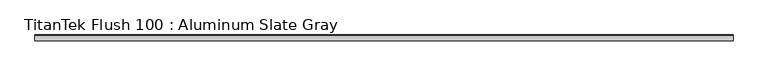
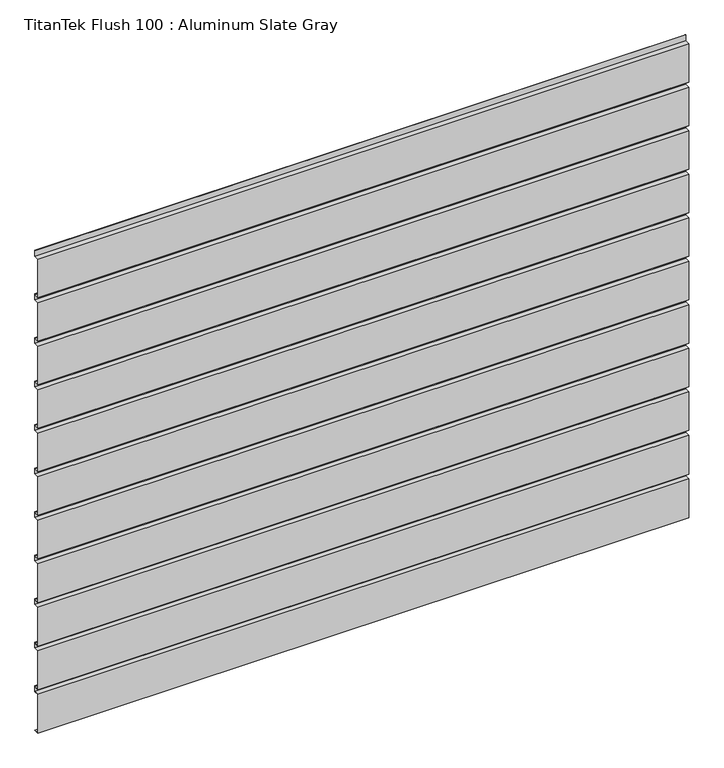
"""IFC4 building model written with IfcOpenShell, lengths in millimetres: proxy geometry, TitanTek Flush 100 : Aluminum Slate Gray."""

from ifc_helpers import new_model, si_unit, frame, origin, place, context, project, spatial, polyline, outline, extrude, source, transform, mapped, element, save


def titantek_flush_100_aluminum_slate_gray_4e4c1b2d(model_context):
    return source(origin(), model_context, "Body", "SweptSolid", [
        extrude(outline(polyline([(-25.4, 3429.0), (-25.4, 3733.8), (12.7, 3733.8), (12.7, 3778.25), (13.6921875, 3778.25), (13.6921875, 3732.8078125), (-24.4078125, 3732.8078125), (-24.4078125, 3429.9921875), (12.7, 3429.9921875), (12.7, 3429.0), (-25.4, 3429.0)])), frame((0.0, 0.0, 0.0), z_axis=(1.0, 0.0, 0.0), x_axis=(0.0, 1.0, 0.0)), (0.0, 0.0, 1.0), 4850.0),
        extrude(outline(polyline([(-25.4, 3086.1), (-25.4, 3390.9), (12.7, 3390.9), (12.7, 3435.35), (13.6921875, 3435.35), (13.6921875, 3389.9078125), (-24.4078125, 3389.9078125), (-24.4078125, 3087.0921875), (12.7, 3087.0921875), (12.7, 3086.1), (-25.4, 3086.1)])), frame((0.0, 0.0, 0.0), z_axis=(1.0, 0.0, 0.0), x_axis=(0.0, 1.0, 0.0)), (0.0, 0.0, 1.0), 4850.0),
        extrude(outline(polyline([(-25.4, 2743.2), (-25.4, 3048.0), (12.7, 3048.0), (12.7, 3092.45), (13.6921875, 3092.45), (13.6921875, 3047.0078125), (-24.4078125, 3047.0078125), (-24.4078125, 2744.1921875), (12.7, 2744.1921875), (12.7, 2743.2), (-25.4, 2743.2)])), frame((0.0, 0.0, 0.0), z_axis=(1.0, 0.0, 0.0), x_axis=(0.0, 1.0, 0.0)), (0.0, 0.0, 1.0), 4850.0),
        extrude(outline(polyline([(-25.4, 2400.3), (-25.4, 2705.1), (12.7, 2705.1), (12.7, 2749.55), (13.6921875, 2749.55), (13.6921875, 2704.1078125), (-24.4078125, 2704.1078125), (-24.4078125, 2401.2921875), (12.7, 2401.2921875), (12.7, 2400.3), (-25.4, 2400.3)])), frame((0.0, 0.0, 0.0), z_axis=(1.0, 0.0, 0.0), x_axis=(0.0, 1.0, 0.0)), (0.0, 0.0, 1.0), 4850.0),
        extrude(outline(polyline([(-25.4, 2057.4), (-25.4, 2362.2), (12.7, 2362.2), (12.7, 2406.65), (13.6921875, 2406.65), (13.6921875, 2361.2078125), (-24.4078125, 2361.2078125), (-24.4078125, 2058.3921875), (12.7, 2058.3921875), (12.7, 2057.4), (-25.4, 2057.4)])), frame((0.0, 0.0, 0.0), z_axis=(1.0, 0.0, 0.0), x_axis=(0.0, 1.0, 0.0)), (0.0, 0.0, 1.0), 4850.0),
        extrude(outline(polyline([(-25.4, 1714.5), (-25.4, 2019.3), (12.7, 2019.3), (12.7, 2063.75), (13.6921875, 2063.75), (13.6921875, 2018.3078125), (-24.4078125, 2018.3078125), (-24.4078125, 1715.4921875), (12.7, 1715.4921875), (12.7, 1714.5), (-25.4, 1714.5)])), frame((0.0, 0.0, 0.0), z_axis=(1.0, 0.0, 0.0), x_axis=(0.0, 1.0, 0.0)), (0.0, 0.0, 1.0), 4850.0),
        extrude(outline(polyline([(-25.4, 1371.6), (-25.4, 1676.4), (12.7, 1676.4), (12.7, 1720.85), (13.6921875, 1720.85), (13.6921875, 1675.4078125), (-24.4078125, 1675.4078125), (-24.4078125, 1372.5921875), (12.7, 1372.5921875), (12.7, 1371.6), (-25.4, 1371.6)])), frame((0.0, 0.0, 0.0), z_axis=(1.0, 0.0, 0.0), x_axis=(0.0, 1.0, 0.0)), (0.0, 0.0, 1.0), 4850.0),
        extrude(outline(polyline([(-25.4, 1028.7), (-25.4, 1333.5), (12.7, 1333.5), (12.7, 1377.95), (13.6921875, 1377.95), (13.6921875, 1332.5078125), (-24.4078125, 1332.5078125), (-24.4078125, 1029.6921875), (12.7, 1029.6921875), (12.7, 1028.7), (-25.4, 1028.7)])), frame((0.0, 0.0, 0.0), z_axis=(1.0, 0.0, 0.0), x_axis=(0.0, 1.0, 0.0)), (0.0, 0.0, 1.0), 4850.0),
        extrude(outline(polyline([(-25.4, 685.8), (-25.4, 990.6), (12.7, 990.6), (12.7, 1035.05), (13.6921875, 1035.05), (13.6921875, 989.6078125), (-24.4078125, 989.6078125), (-24.4078125, 686.7921875), (12.7, 686.7921875), (12.7, 685.8), (-25.4, 685.8)])), frame((0.0, 0.0, 0.0), z_axis=(1.0, 0.0, 0.0), x_axis=(0.0, 1.0, 0.0)), (0.0, 0.0, 1.0), 4850.0),
        extrude(outline(polyline([(-25.4, 342.9), (-25.4, 647.7), (12.7, 647.7), (12.7, 692.15), (13.6921875, 692.15), (13.6921875, 646.7078125), (-24.4078125, 646.7078125), (-24.4078125, 343.8921875), (12.7, 343.8921875), (12.7, 342.9), (-25.4, 342.9)])), frame((0.0, 0.0, 0.0), z_axis=(1.0, 0.0, 0.0), x_axis=(0.0, 1.0, 0.0)), (0.0, 0.0, 1.0), 4850.0),
        extrude(outline(polyline([(-25.4, 0.0), (-25.4, 304.8), (12.7, 304.8), (12.7, 349.25), (13.6921875, 349.25), (13.6921875, 303.8078125), (-24.4078125, 303.8078125), (-24.4078125, 0.9921875), (12.7, 0.9921875), (12.7, 0.0), (-25.4, 0.0)])), frame((0.0, 0.0, 0.0), z_axis=(1.0, 0.0, 0.0), x_axis=(0.0, 1.0, 0.0)), (0.0, 0.0, 1.0), 4850.0),
    ])


if __name__ == "__main__":
    model = new_model("IFC4")
    model_context = context("Model", 3, world=origin())
    ifc_project = project(units=[si_unit("LENGTHUNIT", "METRE", prefix="MILLI")], contexts=[model_context])
    site = spatial("IfcSite", under=ifc_project)
    building = spatial("IfcBuilding", under=site)
    placement = place(None, origin())
    titantek_flush_100_aluminum_slate_gray_shape = titantek_flush_100_aluminum_slate_gray_4e4c1b2d(model_context)
    element("IfcBuildingElementProxy", 1, Name="TitanTek Flush 100 : Aluminum Slate Gray", ObjectType="TitanTek Flush 100 : Aluminum Slate Gray", at=placement, inside=building, context=model_context, shape_type="MappedRepresentation", body=[
        mapped(titantek_flush_100_aluminum_slate_gray_shape, transform((0.0, 0.0, 0.0), x_axis=(1.0, 0.0, 0.0), y_axis=(0.0, 1.0, 0.0), z_axis=(0.0, 0.0, 1.0))),
    ])
    save(model, "model.ifc")
